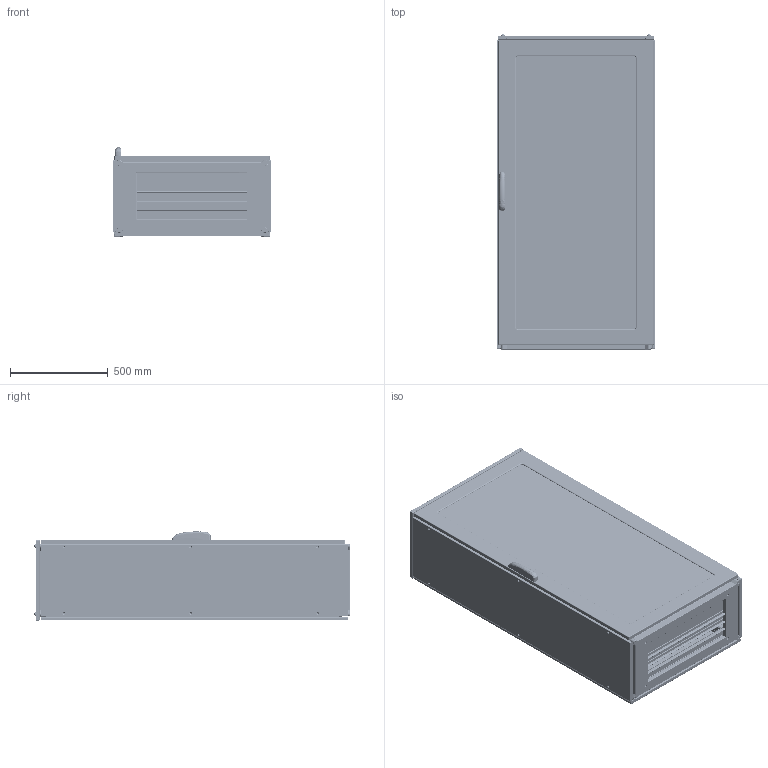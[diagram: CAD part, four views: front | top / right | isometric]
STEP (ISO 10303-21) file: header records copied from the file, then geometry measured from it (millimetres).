
FILE_DESCRIPTION (( 'STEP AP203' ), '1' );
FILE_NAME ('ENUX081604PV.STEP', '2025-05-29T08:31:56', ( '' ), ( '' ), 'SwSTEP 2.0', 'SolidWorks 2022', '' );
FILE_SCHEMA (( 'CONFIG_CONTROL_DESIGN' ));
Length unit declared in the file: millimetre
Products named in the file (13): AR_ENUX_nuova_maniglia_mesan; AR_ENUX_Vite_tetto; AR_ENUX_Porta_singola_plexi_0800x1600_ANT; AR_ENUX_Struttura_0800x1600x0400; AR_ENUX_Tetto_0800x0400; AR_ENUX_Retro_singolo_0800x1600; AR_ENUX_Fianco_0400x1600_SX; AR_ENUX_Tegolino_0800x0100; AR_ENUX_Plexiglass_porte_0800x1600; ENUX081604PV; AR_ENUX_Tegolino_0800x0050; AR_ENUX_Fianco_0400x1600_DX; AR_ENUX_montaggio_porta_singlola_plexi_0800x1600_ANT_DX
Assembly tree (16 placements, depth 3):
  ENUX081604PV
    AR_ENUX_Struttura_0800x1600x0400
    AR_ENUX_Retro_singolo_0800x1600
    AR_ENUX_Fianco_0400x1600_SX
    AR_ENUX_Fianco_0400x1600_DX
    AR_ENUX_Tetto_0800x0400
    AR_ENUX_Vite_tetto  x4
    AR_ENUX_montaggio_porta_singlola_plexi_0800x1600_ANT_DX
      AR_ENUX_Porta_singola_plexi_0800x1600_ANT
      AR_ENUX_Plexiglass_porte_0800x1600
      AR_ENUX_nuova_maniglia_mesan
    AR_ENUX_Tegolino_0800x0100
    AR_ENUX_Tegolino_0800x0050  x2
Bounding box: 812 x 1615.1 x 457 mm (x, y, z)
Volume: 12180627.6 mm3; surface area: 14666220.1 mm2
Topology: 15 solids, 15 shells, 7626 faces, 21488 edges, 13798 vertices
Faces by surface type: plane 4008, cylinder 2758, bspline 365, torus 259, cone 168, sphere 68
Entity records: 286683 total; most frequent: CARTESIAN_POINT 83541, ORIENTED_EDGE 42138, DIRECTION 40166, EDGE_CURVE 21069, VECTOR 14238, LINE 14238, VERTEX_POINT 13640, AXIS2_PLACEMENT_3D 12964
